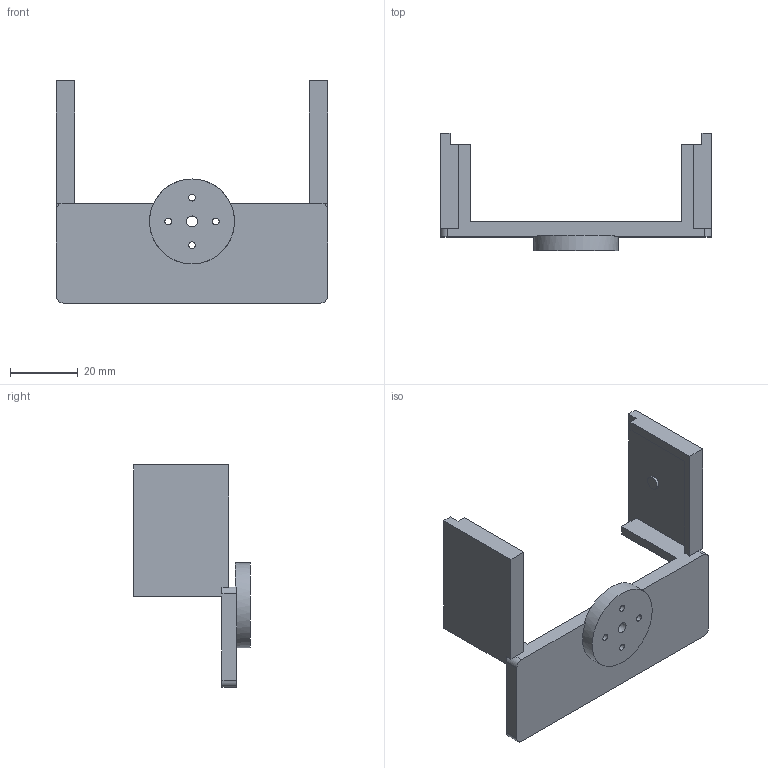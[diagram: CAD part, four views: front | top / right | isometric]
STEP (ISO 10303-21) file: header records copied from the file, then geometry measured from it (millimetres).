
FILE_DESCRIPTION(('Open CASCADE Model'),'2;1');
FILE_NAME('Open CASCADE Shape Model','2026-08-28T20:46:04',('Author'),( 'Open CASCADE'),'Open CASCADE STEP processor 7.8','Open CASCADE 7.8' ,'Unknown');
FILE_SCHEMA(('AUTOMOTIVE_DESIGN { 1 0 10303 214 1 1 1 1 }'));
Length unit declared in the file: millimetre
Products named in the file (1): Open CASCADE STEP translator 7.8 3
Bounding box: 79.71 x 34.4 x 65.31 mm (x, y, z)
Volume: 19691.9 mm3; surface area: 12609 mm2
Topology: 1 solids, 1 shells, 48 faces, 130 edges, 86 vertices
Faces by surface type: plane 36, cylinder 12
Full cylindrical faces by diameter (mm): 2 x4, 3.2 x1, 4 x2, 25 x1
Entity records: 3201 total; most frequent: CARTESIAN_POINT 584, DIRECTION 475, LINE 303, VECTOR 303, ORIENTED_EDGE 260, PCURVE 260, DEFINITIONAL_REPRESENTATION 260, EDGE_CURVE 130
